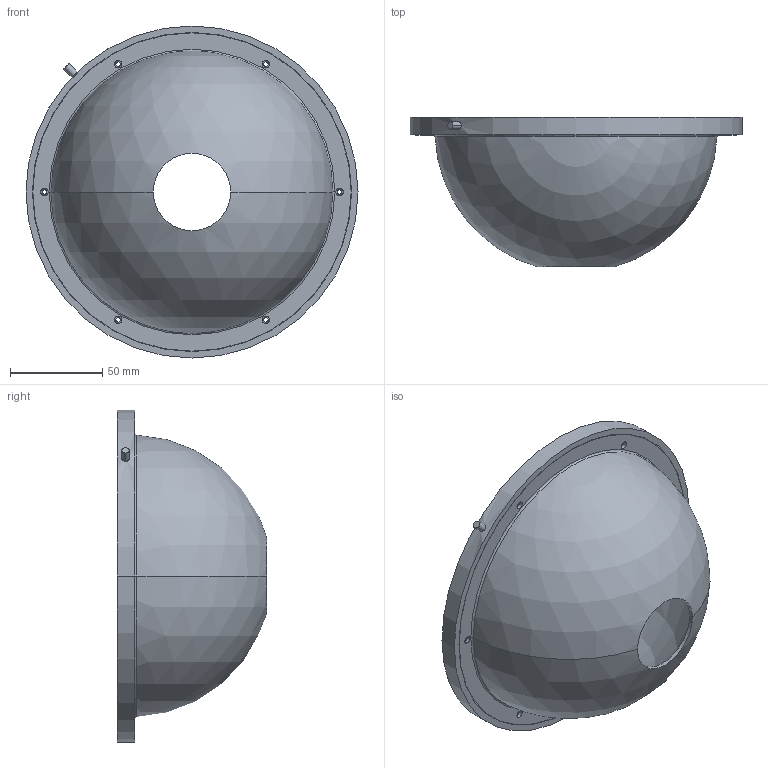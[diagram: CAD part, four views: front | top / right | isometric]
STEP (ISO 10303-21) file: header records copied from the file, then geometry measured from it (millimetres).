
FILE_DESCRIPTION (( 'STEP AP203' ), '1' );
FILE_NAME ('RD180-W.STEP', '2021-10-21T02:11:50', ( 'Windows 蚚誧' ), ( 'Microsoft' ), 'SwSTEP 2.0', 'SolidWorks 2016', '' );
FILE_SCHEMA (( 'CONFIG_CONTROL_DESIGN' ));
Length unit declared in the file: millimetre
Products named in the file (1): RD180-W
Bounding box: 180 x 81 x 180 mm (x, y, z)
Volume: 177655.3 mm3; surface area: 123105.9 mm2
Topology: 1 solids, 1 shells, 65 faces, 142 edges, 92 vertices
Faces by surface type: cylinder 42, plane 15, torus 4, sphere 4
Entity records: 1987 total; most frequent: DIRECTION 370, CARTESIAN_POINT 356, ORIENTED_EDGE 284, AXIS2_PLACEMENT_3D 164, EDGE_CURVE 142, CIRCLE 98, EDGE_LOOP 92, VERTEX_POINT 92
